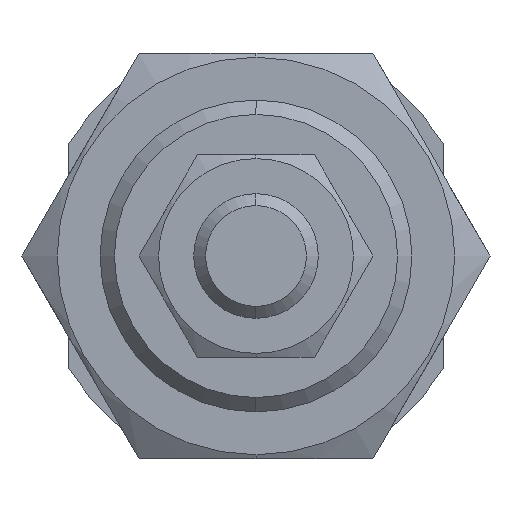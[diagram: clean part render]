
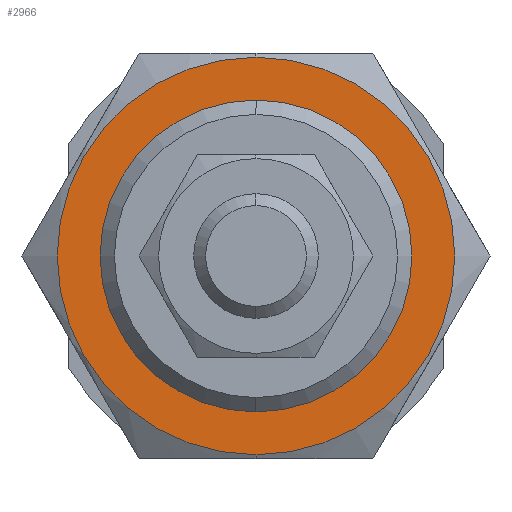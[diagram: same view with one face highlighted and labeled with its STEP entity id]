
A CAD part, left-side view. The second image highlights one B-rep face of the part: STEP entity #2966.
In plain terms, the highlighted planar face has unit normal (-1, 0, 0).
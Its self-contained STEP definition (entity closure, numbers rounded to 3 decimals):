
#23 = VERTEX_POINT ( 'NONE', #3479 ) ;
#190 = DIRECTION ( 'NONE',  ( 0., 0., -1. ) ) ;
#328 = CARTESIAN_POINT ( 'NONE',  ( -11., 0., 0. ) ) ;
#626 = DIRECTION ( 'NONE',  ( 0., 1., 0. ) ) ;
#638 = AXIS2_PLACEMENT_3D ( 'NONE', #4022, #1060, #1294 ) ;
#756 = FACE_BOUND ( 'NONE', #2093, .T. ) ;
#824 = CARTESIAN_POINT ( 'NONE',  ( -11., 0., 0. ) ) ;
#905 = CARTESIAN_POINT ( 'NONE',  ( -11., 0., 12.75 ) ) ;
#922 = EDGE_LOOP ( 'NONE', ( #2865, #2784 ) ) ;
#1060 = DIRECTION ( 'NONE',  ( 1., 0., 0. ) ) ;
#1094 = CARTESIAN_POINT ( 'NONE',  ( -11., 0., 0. ) ) ;
#1294 = DIRECTION ( 'NONE',  ( 0., 0., -1. ) ) ;
#1327 = VERTEX_POINT ( 'NONE', #905 ) ;
#1457 = DIRECTION ( 'NONE',  ( 0., 0., -1. ) ) ;
#1460 = AXIS2_PLACEMENT_3D ( 'NONE', #824, #5041, #4119 ) ;
#1509 = DIRECTION ( 'NONE',  ( 1., 0., 0. ) ) ;
#1781 = CIRCLE ( 'NONE', #5226, 12.75 ) ;
#1958 = CIRCLE ( 'NONE', #638, 10. ) ;
#2093 = EDGE_LOOP ( 'NONE', ( #2182, #3747 ) ) ;
#2182 = ORIENTED_EDGE ( 'NONE', *, *, #3198, .T. ) ;
#2193 = CARTESIAN_POINT ( 'NONE',  ( -11., 0., -10. ) ) ;
#2392 = CARTESIAN_POINT ( 'NONE',  ( -11., 0., 10. ) ) ;
#2436 = DIRECTION ( 'NONE',  ( 1., 0., 0. ) ) ;
#2606 = AXIS2_PLACEMENT_3D ( 'NONE', #328, #2436, #626 ) ;
#2692 = AXIS2_PLACEMENT_3D ( 'NONE', #1094, #1509, #1457 ) ;
#2784 = ORIENTED_EDGE ( 'NONE', *, *, #3346, .F. ) ;
#2865 = ORIENTED_EDGE ( 'NONE', *, *, #4248, .F. ) ;
#2966 = ADVANCED_FACE ( 'NONE', ( #4538, #756 ), #4131, .F. ) ;
#3138 = CIRCLE ( 'NONE', #2692, 12.75 ) ;
#3141 = DIRECTION ( 'NONE',  ( 1., 0., 0. ) ) ;
#3143 = CIRCLE ( 'NONE', #1460, 10. ) ;
#3198 = EDGE_CURVE ( 'NONE', #4813, #4766, #3143, .T. ) ;
#3299 = EDGE_CURVE ( 'NONE', #4766, #4813, #1958, .T. ) ;
#3346 = EDGE_CURVE ( 'NONE', #1327, #23, #1781, .T. ) ;
#3479 = CARTESIAN_POINT ( 'NONE',  ( -11., 0., -12.75 ) ) ;
#3747 = ORIENTED_EDGE ( 'NONE', *, *, #3299, .T. ) ;
#3990 = CARTESIAN_POINT ( 'NONE',  ( -11., 0., 0. ) ) ;
#4022 = CARTESIAN_POINT ( 'NONE',  ( -11., 0., 0. ) ) ;
#4119 = DIRECTION ( 'NONE',  ( 0., 0., -1. ) ) ;
#4131 = PLANE ( 'NONE',  #2606 ) ;
#4248 = EDGE_CURVE ( 'NONE', #23, #1327, #3138, .T. ) ;
#4538 = FACE_OUTER_BOUND ( 'NONE', #922, .T. ) ;
#4766 = VERTEX_POINT ( 'NONE', #2193 ) ;
#4813 = VERTEX_POINT ( 'NONE', #2392 ) ;
#5041 = DIRECTION ( 'NONE',  ( 1., 0., 0. ) ) ;
#5226 = AXIS2_PLACEMENT_3D ( 'NONE', #3990, #3141, #190 ) ;
